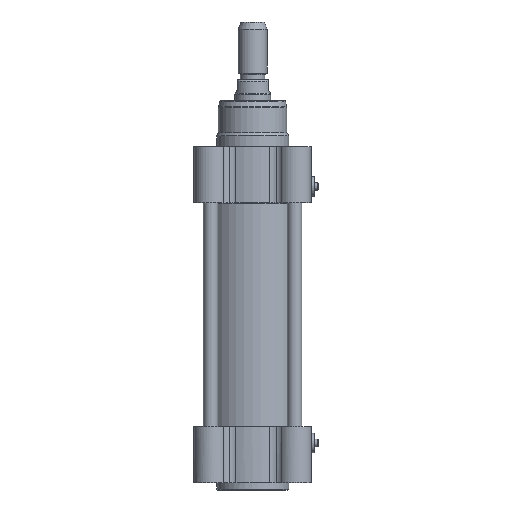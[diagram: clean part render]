
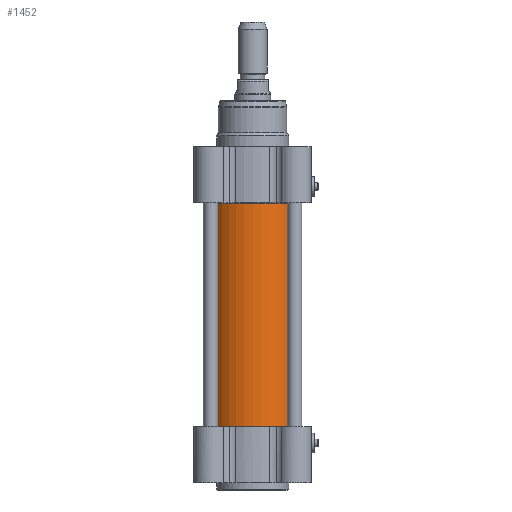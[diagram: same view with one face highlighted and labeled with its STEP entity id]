
A CAD part, front view. The second image highlights one B-rep face of the part: STEP entity #1452.
In plain terms, the highlighted cylindrical face has radius 26.5 mm (diameter 53 mm), a partial arc.
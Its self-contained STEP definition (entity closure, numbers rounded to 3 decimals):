
#263 = CARTESIAN_POINT ( 'NONE',  ( 26.5, 0., 123.8 ) ) ;
#498 = CARTESIAN_POINT ( 'NONE',  ( -26.5, 0., 123.8 ) ) ;
#1042 = DIRECTION ( 'NONE',  ( 0., 0., -1. ) ) ;
#1452 = ADVANCED_FACE ( 'NONE', ( #10417 ), #4241, .T. ) ;
#1912 = DIRECTION ( 'NONE',  ( 0., 0., 1. ) ) ;
#2900 = VERTEX_POINT ( 'NONE', #4077 ) ;
#3671 = EDGE_LOOP ( 'NONE', ( #8473, #10199, #23082, #5198 ) ) ;
#4077 = CARTESIAN_POINT ( 'NONE',  ( -26.5, 0., 0.2 ) ) ;
#4241 = CYLINDRICAL_SURFACE ( 'NONE', #14078, 26.5 ) ;
#5198 = ORIENTED_EDGE ( 'NONE', *, *, #24271, .F. ) ;
#6081 = CIRCLE ( 'NONE', #10076, 26.5 ) ;
#6301 = CARTESIAN_POINT ( 'NONE',  ( 0., 0., 0. ) ) ;
#8124 = VERTEX_POINT ( 'NONE', #263 ) ;
#8473 = ORIENTED_EDGE ( 'NONE', *, *, #22436, .F. ) ;
#10076 = AXIS2_PLACEMENT_3D ( 'NONE', #13645, #1042, #26241 ) ;
#10199 = ORIENTED_EDGE ( 'NONE', *, *, #20962, .T. ) ;
#10417 = FACE_OUTER_BOUND ( 'NONE', #3671, .T. ) ;
#10823 = AXIS2_PLACEMENT_3D ( 'NONE', #16135, #11854, #22440 ) ;
#11005 = LINE ( 'NONE', #19269, #26381 ) ;
#11854 = DIRECTION ( 'NONE',  ( 0., 0., 1. ) ) ;
#12169 = LINE ( 'NONE', #14524, #13101 ) ;
#12840 = EDGE_CURVE ( 'NONE', #22360, #8124, #22675, .T. ) ;
#13101 = VECTOR ( 'NONE', #1912, 1000. ) ;
#13645 = CARTESIAN_POINT ( 'NONE',  ( 0., 0., 0.2 ) ) ;
#14078 = AXIS2_PLACEMENT_3D ( 'NONE', #6301, #14679, #23037 ) ;
#14524 = CARTESIAN_POINT ( 'NONE',  ( 26.5, 0., 0. ) ) ;
#14679 = DIRECTION ( 'NONE',  ( 0., 0., 1. ) ) ;
#15288 = DIRECTION ( 'NONE',  ( 0., 0., 1. ) ) ;
#16135 = CARTESIAN_POINT ( 'NONE',  ( 0., 0., 123.8 ) ) ;
#19269 = CARTESIAN_POINT ( 'NONE',  ( -26.5, 0., 0. ) ) ;
#20469 = CARTESIAN_POINT ( 'NONE',  ( 26.5, 0., 0.2 ) ) ;
#20962 = EDGE_CURVE ( 'NONE', #21621, #8124, #12169, .T. ) ;
#21621 = VERTEX_POINT ( 'NONE', #20469 ) ;
#22360 = VERTEX_POINT ( 'NONE', #498 ) ;
#22436 = EDGE_CURVE ( 'NONE', #21621, #2900, #6081, .T. ) ;
#22440 = DIRECTION ( 'NONE',  ( -1., 0., 0. ) ) ;
#22675 = CIRCLE ( 'NONE', #10823, 26.5 ) ;
#23037 = DIRECTION ( 'NONE',  ( -1., 0., 0. ) ) ;
#23082 = ORIENTED_EDGE ( 'NONE', *, *, #12840, .F. ) ;
#24271 = EDGE_CURVE ( 'NONE', #2900, #22360, #11005, .T. ) ;
#26241 = DIRECTION ( 'NONE',  ( -1., 0., 0. ) ) ;
#26381 = VECTOR ( 'NONE', #15288, 1000. ) ;
